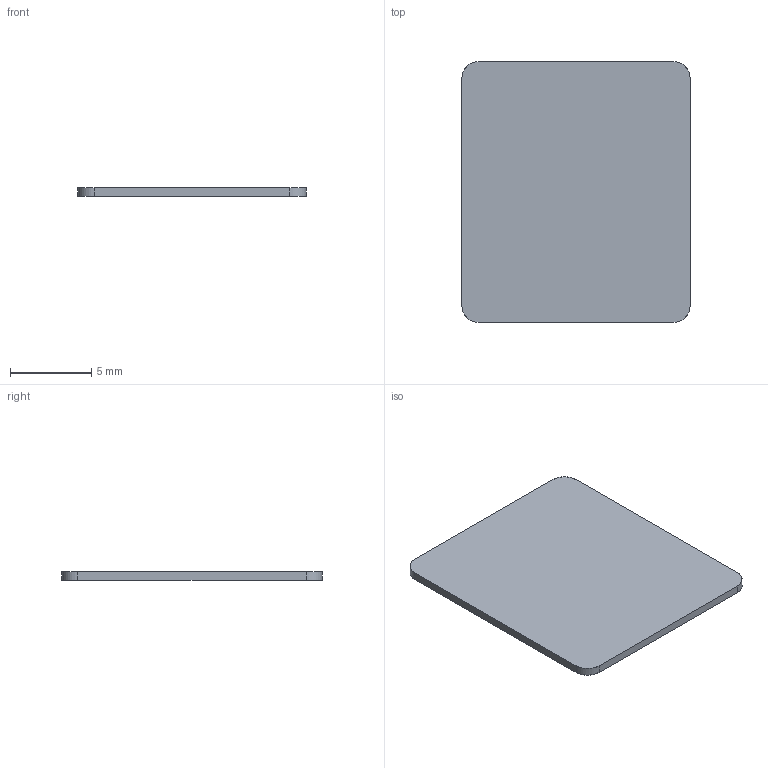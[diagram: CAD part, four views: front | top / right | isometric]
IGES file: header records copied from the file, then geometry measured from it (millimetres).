
Global section: file name: 2770215_ts_kk3_select.igs; native system: OneSpace Designer 3D IGES; preprocessor: 12.01C  26-Mar-2004; date: 20041112.133731; units: millimetre
Bounding box: 14 x 16 x 0.5 mm (x, y, z)
Surface area: 475.5 mm2 (no closed solid volume)
Topology: 0 solids, 0 shells, 10 faces, 80 edges, 80 vertices
Faces by surface type: bspline 10
